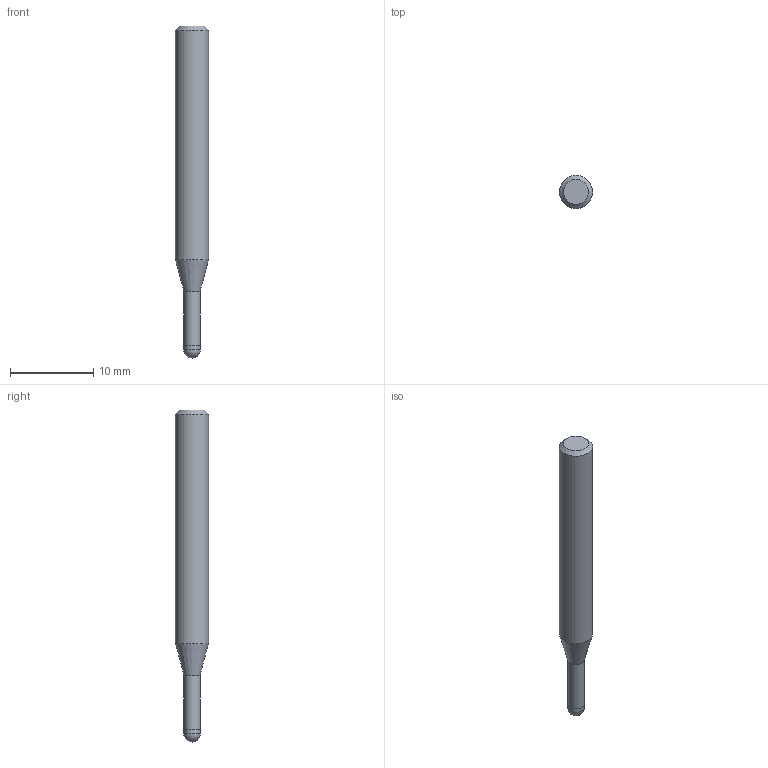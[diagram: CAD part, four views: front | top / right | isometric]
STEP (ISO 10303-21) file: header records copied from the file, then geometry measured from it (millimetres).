
FILE_DESCRIPTION((''),'2;1');
FILE_NAME('C:\Users\nsx150\AppData\Local\Temp\Mastercam 2021\QT8KEW0Y7J\TEMP.step','2021-04-23T11:21:32',(''),(''),'STEP Write','Mastercam 2021 ... CNC Software, Inc.','');
FILE_SCHEMA(('AUTOMOTIVE_DESIGN'));
Length unit declared in the file: millimetre
Products named in the file (1): None
Bounding box: 4 x 4 x 40 mm (x, y, z)
Volume: 403 mm3; surface area: 454.6 mm2
Topology: 2 solids, 2 shells, 9 faces, 14 edges, 8 vertices
Faces by surface type: plane 3, cylinder 3, cone 2, sphere 1
Full cylindrical faces by diameter (mm): 1.94 x1, 2 x1, 4 x1
Entity records: 211 total; most frequent: DIRECTION 36, CARTESIAN_POINT 25, AXIS2_PLACEMENT_3D 18, ORIENTED_EDGE 14, EDGE_LOOP 14, STYLED_ITEM 12, ADVANCED_FACE 9, FACE_BOUND 8
